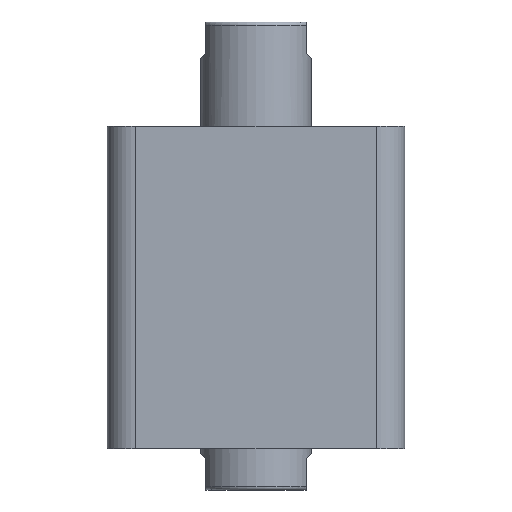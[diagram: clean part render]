
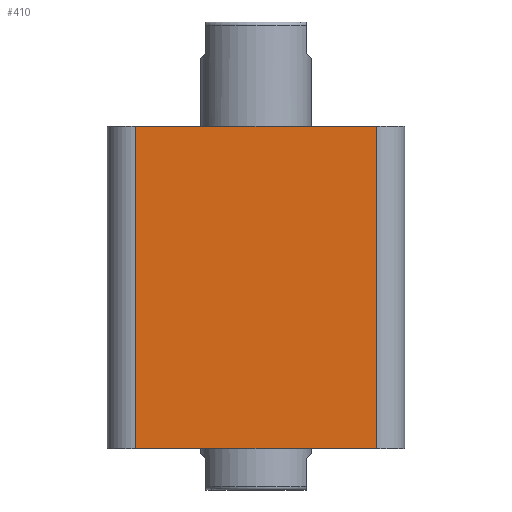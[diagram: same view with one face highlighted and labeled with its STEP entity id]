
A CAD part, front view. The second image highlights one B-rep face of the part: STEP entity #410.
In plain terms, the highlighted planar face has unit normal (0, -1, 0).
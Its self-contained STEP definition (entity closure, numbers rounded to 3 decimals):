
#61 = VERTEX_POINT ( 'NONE', #1050 ) ;
#95 = VERTEX_POINT ( 'NONE', #521 ) ;
#182 = VERTEX_POINT ( 'NONE', #535 ) ;
#184 = VERTEX_POINT ( 'NONE', #536 ) ;
#410 = ADVANCED_FACE ( 'NONE', ( #1769 ), #694, .F. ) ;
#521 = CARTESIAN_POINT ( 'NONE',  ( -38., -47., 102. ) ) ;
#535 = CARTESIAN_POINT ( 'NONE',  ( -38., -47., 0. ) ) ;
#536 = CARTESIAN_POINT ( 'NONE',  ( 38., -47., 0. ) ) ;
#692 = CARTESIAN_POINT ( 'NONE',  ( -47., -47., 102. ) ) ;
#694 = PLANE ( 'NONE',  #2305 ) ;
#696 = DIRECTION ( 'NONE',  ( 0., 1., 0. ) ) ;
#697 = DIRECTION ( 'NONE',  ( 0., 0., 1. ) ) ;
#1050 = CARTESIAN_POINT ( 'NONE',  ( 38., -47., 102. ) ) ;
#1351 = CARTESIAN_POINT ( 'NONE',  ( -47., -47., 0. ) ) ;
#1362 = CARTESIAN_POINT ( 'NONE',  ( -47., -47., 102. ) ) ;
#1363 = DIRECTION ( 'NONE',  ( 1., 0., 0. ) ) ;
#1364 = CARTESIAN_POINT ( 'NONE',  ( -38., -47., 102. ) ) ;
#1365 = DIRECTION ( 'NONE',  ( 0., 0., -1. ) ) ;
#1366 = DIRECTION ( 'NONE',  ( 1., 0., 0. ) ) ;
#1367 = CARTESIAN_POINT ( 'NONE',  ( 38., -47., 102. ) ) ;
#1368 = DIRECTION ( 'NONE',  ( 0., 0., 1. ) ) ;
#1769 = FACE_OUTER_BOUND ( 'NONE', #2831, .T. ) ;
#2055 = LINE ( 'NONE', #1351, #2068 ) ;
#2061 = LINE ( 'NONE', #1362, #2064 ) ;
#2063 = LINE ( 'NONE', #1364, #2066 ) ;
#2064 = VECTOR ( 'NONE', #1363, 1000. ) ;
#2066 = VECTOR ( 'NONE', #1365, 1000. ) ;
#2067 = LINE ( 'NONE', #1367, #2070 ) ;
#2068 = VECTOR ( 'NONE', #1366, 1000. ) ;
#2070 = VECTOR ( 'NONE', #1368, 1000. ) ;
#2305 = AXIS2_PLACEMENT_3D ( 'NONE', #692, #696, #697 ) ;
#2831 = EDGE_LOOP ( 'NONE', ( #3183, #3184, #3181, #3166 ) ) ;
#3136 = EDGE_CURVE ( 'NONE', #95, #61, #2061, .T. ) ;
#3137 = EDGE_CURVE ( 'NONE', #95, #182, #2063, .T. ) ;
#3138 = EDGE_CURVE ( 'NONE', #182, #184, #2055, .T. ) ;
#3139 = EDGE_CURVE ( 'NONE', #184, #61, #2067, .T. ) ;
#3166 = ORIENTED_EDGE ( 'NONE', *, *, #3139, .T. ) ;
#3181 = ORIENTED_EDGE ( 'NONE', *, *, #3138, .T. ) ;
#3183 = ORIENTED_EDGE ( 'NONE', *, *, #3136, .F. ) ;
#3184 = ORIENTED_EDGE ( 'NONE', *, *, #3137, .T. ) ;
